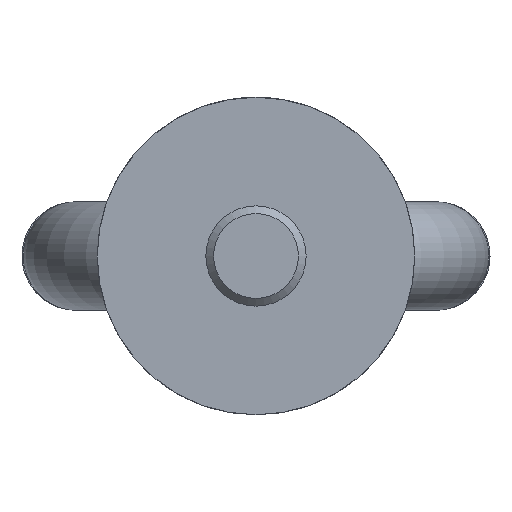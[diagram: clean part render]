
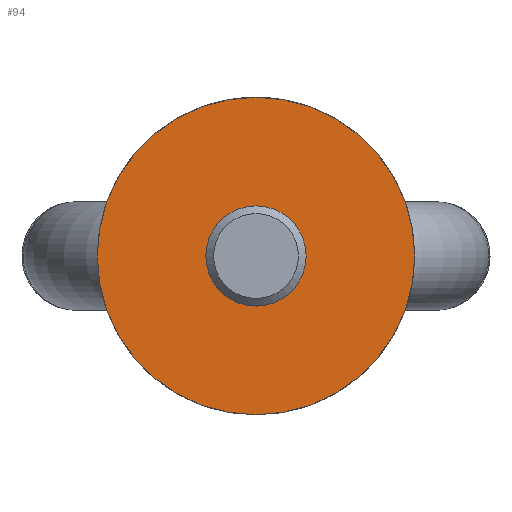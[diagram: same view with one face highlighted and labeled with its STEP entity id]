
A CAD part, front view. The second image highlights one B-rep face of the part: STEP entity #94.
In plain terms, the highlighted planar face has unit normal (0, -1, 0).
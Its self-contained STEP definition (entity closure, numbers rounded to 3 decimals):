
#94 = ADVANCED_FACE( '', ( #151, #152 ), #153, .F. );
#151 = FACE_BOUND( '', #219, .T. );
#152 = FACE_OUTER_BOUND( '', #220, .T. );
#153 = PLANE( '', #221 );
#219 = EDGE_LOOP( '', ( #373 ) );
#220 = EDGE_LOOP( '', ( #374 ) );
#221 = AXIS2_PLACEMENT_3D( '', #375, #376, #377 );
#373 = ORIENTED_EDGE( '', *, *, #456, .T. );
#374 = ORIENTED_EDGE( '', *, *, #438, .T. );
#375 = CARTESIAN_POINT( '', ( 19., 0., 0. ) );
#376 = DIRECTION( '', ( 0., 1., 0. ) );
#377 = DIRECTION( '', ( 0., 0., 1. ) );
#438 = EDGE_CURVE( '', #504, #504, #505, .T. );
#456 = EDGE_CURVE( '', #532, #532, #533, .T. );
#504 = VERTEX_POINT( '', #908 );
#505 = CIRCLE( '', #909, 19. );
#532 = VERTEX_POINT( '', #954 );
#533 = CIRCLE( '', #955, 6. );
#908 = CARTESIAN_POINT( '', ( 0., 0., -19. ) );
#909 = AXIS2_PLACEMENT_3D( '', #1000, #1001, #1002 );
#954 = CARTESIAN_POINT( '', ( 0., 0., 6. ) );
#955 = AXIS2_PLACEMENT_3D( '', #1027, #1028, #1029 );
#1000 = CARTESIAN_POINT( '', ( 0., 0., 0. ) );
#1001 = DIRECTION( '', ( 0., -1., 0. ) );
#1002 = DIRECTION( '', ( 0., 0., -1. ) );
#1027 = CARTESIAN_POINT( '', ( 0., 0., 0. ) );
#1028 = DIRECTION( '', ( 0., 1., 0. ) );
#1029 = DIRECTION( '', ( 0., 0., 1. ) );
